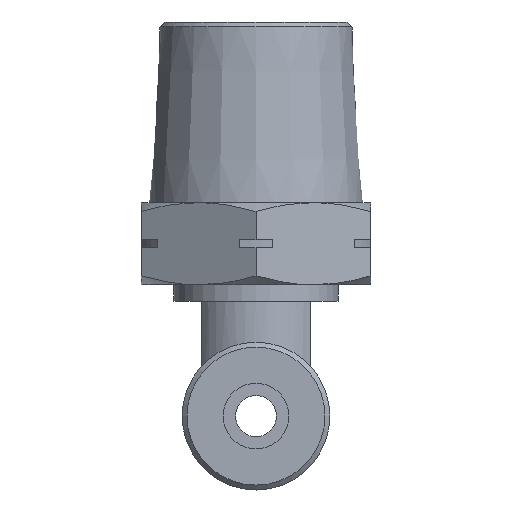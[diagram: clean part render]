
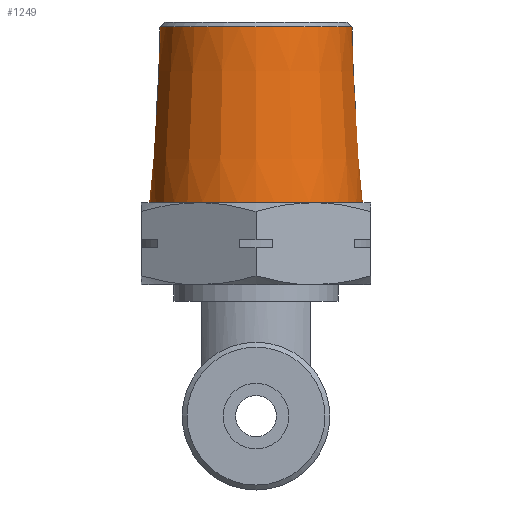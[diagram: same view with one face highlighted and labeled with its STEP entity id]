
A CAD part, front view. The second image highlights one B-rep face of the part: STEP entity #1249.
In plain terms, the highlighted conical face has half-angle 3.5 degrees and reference radius 6.164 mm.
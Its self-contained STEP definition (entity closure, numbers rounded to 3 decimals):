
#30=CONICAL_SURFACE('',#1370,6.164,0.061);
#120=FACE_OUTER_BOUND('',#200,.T.);
#200=EDGE_LOOP('',(#902,#903,#904,#905,#906));
#285=CIRCLE('',#1368,5.846);
#286=CIRCLE('',#1369,5.846);
#287=CIRCLE('',#1371,6.5);
#388=LINE('',#2038,#472);
#472=VECTOR('',#1614,6.164);
#560=VERTEX_POINT('',#2031);
#561=VERTEX_POINT('',#2033);
#562=VERTEX_POINT('',#2037);
#693=EDGE_CURVE('',#560,#561,#285,.T.);
#694=EDGE_CURVE('',#561,#560,#286,.T.);
#695=EDGE_CURVE('',#561,#562,#388,.T.);
#696=EDGE_CURVE('',#562,#562,#287,.T.);
#902=ORIENTED_EDGE('',*,*,#693,.F.);
#903=ORIENTED_EDGE('',*,*,#694,.F.);
#904=ORIENTED_EDGE('',*,*,#695,.T.);
#905=ORIENTED_EDGE('',*,*,#696,.F.);
#906=ORIENTED_EDGE('',*,*,#695,.F.);
#1249=ADVANCED_FACE('',(#120),#30,.T.);
#1368=AXIS2_PLACEMENT_3D('',#2034,#1608,#1609);
#1369=AXIS2_PLACEMENT_3D('',#2035,#1610,#1611);
#1370=AXIS2_PLACEMENT_3D('',#2036,#1612,#1613);
#1371=AXIS2_PLACEMENT_3D('',#2039,#1615,#1616);
#1608=DIRECTION('center_axis',(0.,0.,1.));
#1609=DIRECTION('ref_axis',(0.,-1.,0.));
#1610=DIRECTION('center_axis',(0.,0.,1.));
#1611=DIRECTION('ref_axis',(0.,-1.,0.));
#1612=DIRECTION('center_axis',(0.,0.,-1.));
#1613=DIRECTION('ref_axis',(0.,1.,0.));
#1614=DIRECTION('',(0.,-0.061,-0.998));
#1615=DIRECTION('center_axis',(0.,0.,-1.));
#1616=DIRECTION('ref_axis',(0.,1.,0.));
#2031=CARTESIAN_POINT('',(0.,5.846,23.701));
#2033=CARTESIAN_POINT('',(0.,-5.846,23.701));
#2034=CARTESIAN_POINT('Origin',(0.,0.,23.701));
#2035=CARTESIAN_POINT('Origin',(0.,0.,23.701));
#2036=CARTESIAN_POINT('Origin',(0.,0.,18.5));
#2037=CARTESIAN_POINT('',(0.,-6.5,13.));
#2038=CARTESIAN_POINT('',(0.,-6.164,18.5));
#2039=CARTESIAN_POINT('Origin',(0.,0.,13.));
